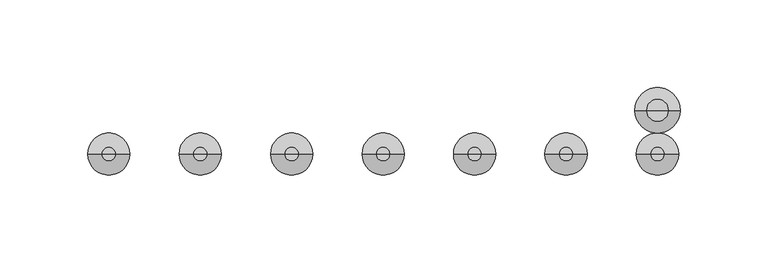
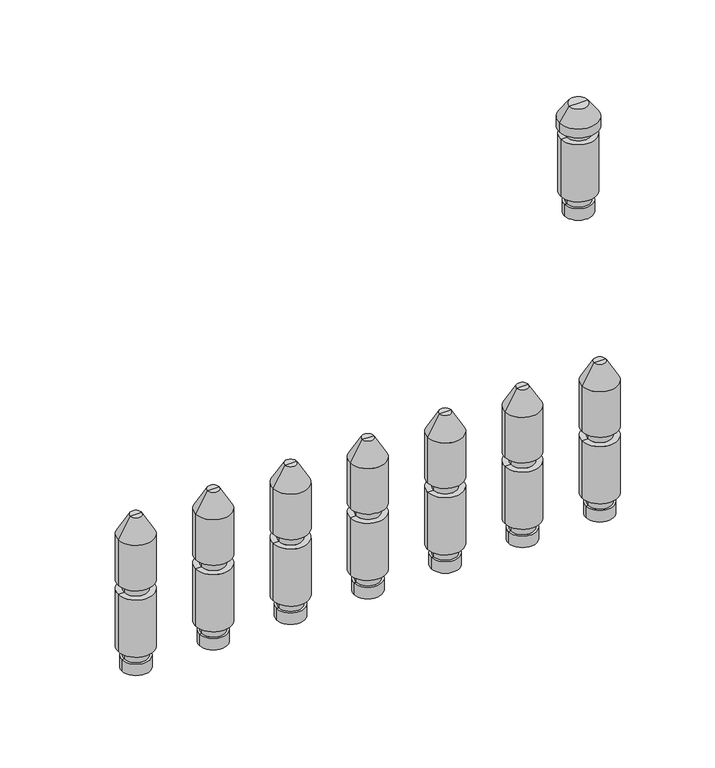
"""IFC4 building model written with IfcOpenShell, lengths in millimetres: valve geometry, PL AT_Manifold_FT-EV : 15 circuits."""

from ifc_helpers import new_model, si_unit, frame, origin, place, context, project, spatial, polyline, circle_curve, source, transform, mapped, element, save
from ifc_brep_helpers import plane_surface, cylinder_surface, revolved_surface, advanced_brep


def valve_c563ffe1(model_context):
    return source(origin(), model_context, "Body", "AdvancedBrep", [
        advanced_brep(
        [(710.3571429, 0.0, -35.11267), (729.3571429, 0.0, -35.11267), (719.8571429, 0.0, -35.11267), (710.3571429, 0.0, -27.0369646), (729.3571429, 0.0, -27.0369646), (711.8571429, 0.0, -27.0369646), (727.8571429, 0.0, -27.0369646), (711.8571429, 0.0, -20.330253), (727.8571429, 0.0, -20.330253), (707.8571429, 0.0, -20.330253), (731.8571429, 0.0, -20.330253), (707.8571429, 0.0, 20.330253), (731.8571429, 0.0, 20.330253), (711.8571429, 0.0, 20.330253), (727.8571429, 0.0, 20.330253), (711.8571429, 0.0, 27.0474786), (727.8571429, 0.0, 27.0474786), (707.8571429, 0.0, 27.0474786), (731.8571429, 0.0, 27.0474786), (707.8571429, 0.0, 59.4084325), (731.8571429, 0.0, 59.4084325), (715.8571429, 0.0, 73.264839), (723.8571429, 0.0, 73.264839), (719.8571429, 0.0, 73.264839)],
        [
            (0, 1, circle_curve(frame((719.8571429, 0.0, -35.11267), z_axis=(0.0, 0.0, -1.0), x_axis=(1.0, 0.0, 0.0)), 9.5)),
            (1, 2),
            (2, 0),
            (1, 0, circle_curve(frame((719.8571429, 0.0, -35.11267), z_axis=(0.0, 0.0, -1.0), x_axis=(1.0, 0.0, 0.0)), 9.5)),
            (3, 4, circle_curve(frame((719.8571429, 0.0, -27.0369646), z_axis=(0.0, 0.0, -1.0), x_axis=(1.0, 0.0, 0.0)), 9.5)),
            (4, 1),
            (0, 3),
            (4, 3, circle_curve(frame((719.8571429, 0.0, -27.0369646), z_axis=(0.0, 0.0, -1.0), x_axis=(1.0, 0.0, 0.0)), 9.5)),
            (5, 6, circle_curve(frame((719.8571429, 0.0, -27.0369646), z_axis=(0.0, 0.0, -1.0), x_axis=(1.0, 0.0, 0.0)), 8.0)),
            (6, 4),
            (3, 5),
            (6, 5, circle_curve(frame((719.8571429, 0.0, -27.0369646), z_axis=(0.0, 0.0, -1.0), x_axis=(1.0, 0.0, 0.0)), 8.0)),
            (7, 8, circle_curve(frame((719.8571429, 0.0, -20.330253), z_axis=(0.0, 0.0, -1.0), x_axis=(1.0, 0.0, 0.0)), 8.0)),
            (8, 6),
            (5, 7),
            (8, 7, circle_curve(frame((719.8571429, 0.0, -20.330253), z_axis=(0.0, 0.0, -1.0), x_axis=(1.0, 0.0, 0.0)), 8.0)),
            (9, 10, circle_curve(frame((719.8571429, 0.0, -20.330253), z_axis=(0.0, 0.0, -1.0), x_axis=(1.0, 0.0, 0.0)), 12.0)),
            (10, 8),
            (7, 9),
            (10, 9, circle_curve(frame((719.8571429, 0.0, -20.330253), z_axis=(0.0, 0.0, -1.0), x_axis=(1.0, 0.0, 0.0)), 12.0)),
            (11, 12, circle_curve(frame((719.8571429, 0.0, 20.330253), z_axis=(0.0, 0.0, -1.0), x_axis=(1.0, 0.0, 0.0)), 12.0)),
            (12, 10),
            (9, 11),
            (12, 11, circle_curve(frame((719.8571429, 0.0, 20.330253), z_axis=(0.0, 0.0, -1.0), x_axis=(1.0, 0.0, 0.0)), 12.0)),
            (13, 14, circle_curve(frame((719.8571429, 0.0, 20.330253), z_axis=(0.0, 0.0, -1.0), x_axis=(1.0, 0.0, 0.0)), 8.0)),
            (14, 12),
            (11, 13),
            (14, 13, circle_curve(frame((719.8571429, 0.0, 20.330253), z_axis=(0.0, 0.0, -1.0), x_axis=(1.0, 0.0, 0.0)), 8.0)),
            (15, 16, circle_curve(frame((719.8571429, 0.0, 27.0474786), z_axis=(0.0, 0.0, -1.0), x_axis=(1.0, 0.0, 0.0)), 8.0)),
            (16, 14),
            (13, 15),
            (16, 15, circle_curve(frame((719.8571429, 0.0, 27.0474786), z_axis=(0.0, 0.0, -1.0), x_axis=(1.0, 0.0, 0.0)), 8.0)),
            (17, 18, circle_curve(frame((719.8571429, 0.0, 27.0474786), z_axis=(0.0, 0.0, -1.0), x_axis=(1.0, 0.0, 0.0)), 12.0)),
            (18, 16),
            (15, 17),
            (18, 17, circle_curve(frame((719.8571429, 0.0, 27.0474786), z_axis=(0.0, 0.0, -1.0), x_axis=(1.0, 0.0, 0.0)), 12.0)),
            (19, 20, circle_curve(frame((719.8571429, 0.0, 59.4084325), z_axis=(0.0, 0.0, -1.0), x_axis=(1.0, 0.0, 0.0)), 12.0)),
            (20, 18),
            (17, 19),
            (20, 19, circle_curve(frame((719.8571429, 0.0, 59.4084325), z_axis=(0.0, 0.0, -1.0), x_axis=(1.0, 0.0, 0.0)), 12.0)),
            (21, 22, circle_curve(frame((719.8571429, 0.0, 73.264839), z_axis=(0.0, 0.0, -1.0), x_axis=(1.0, 0.0, 0.0)), 4.0)),
            (22, 20),
            (19, 21),
            (22, 21, circle_curve(frame((719.8571429, 0.0, 73.264839), z_axis=(0.0, 0.0, -1.0), x_axis=(1.0, 0.0, 0.0)), 4.0)),
            (23, 22),
            (21, 23),
        ],
        [
            plane_surface(frame((719.8571429, 0.0, -35.11267), z_axis=(0.0, 0.0, -1.0), x_axis=(1.0, 0.0, 0.0))),
            cylinder_surface(frame((719.8571429, 0.0, 58.264839), z_axis=(0.0, 0.0, 1.0), x_axis=(1.0, 0.0, 0.0)), 9.5),
            plane_surface(frame((719.8571429, 0.0, -27.0369646), z_axis=(0.0, 0.0, 1.0), x_axis=(1.0, 0.0, 0.0))),
            cylinder_surface(frame((719.8571429, 0.0, 58.264839), z_axis=(0.0, 0.0, 1.0), x_axis=(1.0, 0.0, 0.0)), 8.0),
            plane_surface(frame((719.8571429, 0.0, -20.330253), z_axis=(0.0, 0.0, -1.0), x_axis=(1.0, 0.0, 0.0))),
            cylinder_surface(frame((719.8571429, 0.0, 58.264839), z_axis=(0.0, 0.0, 1.0), x_axis=(1.0, 0.0, 0.0)), 12.0),
            plane_surface(frame((719.8571429, 0.0, 20.330253), z_axis=(0.0, 0.0, 1.0), x_axis=(1.0, 0.0, 0.0))),
            plane_surface(frame((719.8571429, 0.0, 27.0474786), z_axis=(0.0, 0.0, -1.0), x_axis=(1.0, 0.0, 0.0))),
            revolved_surface(polyline([(731.8571429, 0.0, 59.4084325), (723.8571429, 0.0, 73.264839)]), (719.8571429, 0.0, 58.264839), (0.0, 0.0, 1.0)),
            plane_surface(frame((719.8571429, 0.0, 73.264839), z_axis=(0.0, 0.0, 1.0), x_axis=(1.0, 0.0, 0.0))),
        ],
        [
            (0, [[1, 2, 3]]),
            (0, [[4, -3, -2]]),
            (1, [[5, 6, -1, 7]]),
            (1, [[8, -7, -4, -6]]),
            (2, [[9, 10, -5, 11]]),
            (2, [[12, -11, -8, -10]]),
            (3, [[13, 14, -9, 15]]),
            (3, [[16, -15, -12, -14]]),
            (4, [[17, 18, -13, 19]]),
            (4, [[20, -19, -16, -18]]),
            (5, [[21, 22, -17, 23]]),
            (5, [[24, -23, -20, -22]]),
            (6, [[25, 26, -21, 27]]),
            (6, [[28, -27, -24, -26]]),
            (3, [[29, 30, -25, 31]]),
            (3, [[32, -31, -28, -30]]),
            (7, [[33, 34, -29, 35]]),
            (7, [[36, -35, -32, -34]]),
            (5, [[37, 38, -33, 39]]),
            (5, [[40, -39, -36, -38]]),
            (8, [[41, 42, -37, 43]]),
            (8, [[44, -43, -40, -42]]),
            (9, [[45, -41, 46]]),
            (9, [[-46, -44, -45]]),
        ],
    ),
        advanced_brep(
        [(658.2142857, 0.0, -35.11267), (677.2142857, 0.0, -35.11267), (667.7142857, 0.0, -35.11267), (658.2142857, 0.0, -27.0369646), (677.2142857, 0.0, -27.0369646), (659.7142857, 0.0, -27.0369646), (675.7142857, 0.0, -27.0369646), (659.7142857, 0.0, -20.330253), (675.7142857, 0.0, -20.330253), (655.7142857, 0.0, -20.330253), (679.7142857, 0.0, -20.330253), (655.7142857, 0.0, 20.330253), (679.7142857, 0.0, 20.330253), (659.7142857, 0.0, 20.330253), (675.7142857, 0.0, 20.330253), (659.7142857, 0.0, 27.0474786), (675.7142857, 0.0, 27.0474786), (655.7142857, 0.0, 27.0474786), (679.7142857, 0.0, 27.0474786), (655.7142857, 0.0, 59.4084325), (679.7142857, 0.0, 59.4084325), (663.7142857, 0.0, 73.264839), (671.7142857, 0.0, 73.264839), (667.7142857, 0.0, 73.264839)],
        [
            (0, 1, circle_curve(frame((667.7142857, 0.0, -35.11267), z_axis=(0.0, 0.0, -1.0), x_axis=(1.0, 0.0, 0.0)), 9.5)),
            (1, 2),
            (2, 0),
            (1, 0, circle_curve(frame((667.7142857, 0.0, -35.11267), z_axis=(0.0, 0.0, -1.0), x_axis=(1.0, 0.0, 0.0)), 9.5)),
            (3, 4, circle_curve(frame((667.7142857, 0.0, -27.0369646), z_axis=(0.0, 0.0, -1.0), x_axis=(1.0, 0.0, 0.0)), 9.5)),
            (4, 1),
            (0, 3),
            (4, 3, circle_curve(frame((667.7142857, 0.0, -27.0369646), z_axis=(0.0, 0.0, -1.0), x_axis=(1.0, 0.0, 0.0)), 9.5)),
            (5, 6, circle_curve(frame((667.7142857, 0.0, -27.0369646), z_axis=(0.0, 0.0, -1.0), x_axis=(1.0, 0.0, 0.0)), 8.0)),
            (6, 4),
            (3, 5),
            (6, 5, circle_curve(frame((667.7142857, 0.0, -27.0369646), z_axis=(0.0, 0.0, -1.0), x_axis=(1.0, 0.0, 0.0)), 8.0)),
            (7, 8, circle_curve(frame((667.7142857, 0.0, -20.330253), z_axis=(0.0, 0.0, -1.0), x_axis=(1.0, 0.0, 0.0)), 8.0)),
            (8, 6),
            (5, 7),
            (8, 7, circle_curve(frame((667.7142857, 0.0, -20.330253), z_axis=(0.0, 0.0, -1.0), x_axis=(1.0, 0.0, 0.0)), 8.0)),
            (9, 10, circle_curve(frame((667.7142857, 0.0, -20.330253), z_axis=(0.0, 0.0, -1.0), x_axis=(1.0, 0.0, 0.0)), 12.0)),
            (10, 8),
            (7, 9),
            (10, 9, circle_curve(frame((667.7142857, 0.0, -20.330253), z_axis=(0.0, 0.0, -1.0), x_axis=(1.0, 0.0, 0.0)), 12.0)),
            (11, 12, circle_curve(frame((667.7142857, 0.0, 20.330253), z_axis=(0.0, 0.0, -1.0), x_axis=(1.0, 0.0, 0.0)), 12.0)),
            (12, 10),
            (9, 11),
            (12, 11, circle_curve(frame((667.7142857, 0.0, 20.330253), z_axis=(0.0, 0.0, -1.0), x_axis=(1.0, 0.0, 0.0)), 12.0)),
            (13, 14, circle_curve(frame((667.7142857, 0.0, 20.330253), z_axis=(0.0, 0.0, -1.0), x_axis=(1.0, 0.0, 0.0)), 8.0)),
            (14, 12),
            (11, 13),
            (14, 13, circle_curve(frame((667.7142857, 0.0, 20.330253), z_axis=(0.0, 0.0, -1.0), x_axis=(1.0, 0.0, 0.0)), 8.0)),
            (15, 16, circle_curve(frame((667.7142857, 0.0, 27.0474786), z_axis=(0.0, 0.0, -1.0), x_axis=(1.0, 0.0, 0.0)), 8.0)),
            (16, 14),
            (13, 15),
            (16, 15, circle_curve(frame((667.7142857, 0.0, 27.0474786), z_axis=(0.0, 0.0, -1.0), x_axis=(1.0, 0.0, 0.0)), 8.0)),
            (17, 18, circle_curve(frame((667.7142857, 0.0, 27.0474786), z_axis=(0.0, 0.0, -1.0), x_axis=(1.0, 0.0, 0.0)), 12.0)),
            (18, 16),
            (15, 17),
            (18, 17, circle_curve(frame((667.7142857, 0.0, 27.0474786), z_axis=(0.0, 0.0, -1.0), x_axis=(1.0, 0.0, 0.0)), 12.0)),
            (19, 20, circle_curve(frame((667.7142857, 0.0, 59.4084325), z_axis=(0.0, 0.0, -1.0), x_axis=(1.0, 0.0, 0.0)), 12.0)),
            (20, 18),
            (17, 19),
            (20, 19, circle_curve(frame((667.7142857, 0.0, 59.4084325), z_axis=(0.0, 0.0, -1.0), x_axis=(1.0, 0.0, 0.0)), 12.0)),
            (21, 22, circle_curve(frame((667.7142857, 0.0, 73.264839), z_axis=(0.0, 0.0, -1.0), x_axis=(1.0, 0.0, 0.0)), 4.0)),
            (22, 20),
            (19, 21),
            (22, 21, circle_curve(frame((667.7142857, 0.0, 73.264839), z_axis=(0.0, 0.0, -1.0), x_axis=(1.0, 0.0, 0.0)), 4.0)),
            (23, 22),
            (21, 23),
        ],
        [
            plane_surface(frame((667.7142857, 0.0, -35.11267), z_axis=(0.0, 0.0, -1.0), x_axis=(1.0, 0.0, 0.0))),
            cylinder_surface(frame((667.7142857, 0.0, 58.264839), z_axis=(0.0, 0.0, 1.0), x_axis=(1.0, 0.0, 0.0)), 9.5),
            plane_surface(frame((667.7142857, 0.0, -27.0369646), z_axis=(0.0, 0.0, 1.0), x_axis=(1.0, 0.0, 0.0))),
            cylinder_surface(frame((667.7142857, 0.0, 58.264839), z_axis=(0.0, 0.0, 1.0), x_axis=(1.0, 0.0, 0.0)), 8.0),
            plane_surface(frame((667.7142857, 0.0, -20.330253), z_axis=(0.0, 0.0, -1.0), x_axis=(1.0, 0.0, 0.0))),
            cylinder_surface(frame((667.7142857, 0.0, 58.264839), z_axis=(0.0, 0.0, 1.0), x_axis=(1.0, 0.0, 0.0)), 12.0),
            plane_surface(frame((667.7142857, 0.0, 20.330253), z_axis=(0.0, 0.0, 1.0), x_axis=(1.0, 0.0, 0.0))),
            plane_surface(frame((667.7142857, 0.0, 27.0474786), z_axis=(0.0, 0.0, -1.0), x_axis=(1.0, 0.0, 0.0))),
            revolved_surface(polyline([(679.7142857, 0.0, 59.4084325), (671.7142857, 0.0, 73.264839)]), (667.7142857, 0.0, 58.264839), (0.0, 0.0, 1.0)),
            plane_surface(frame((667.7142857, 0.0, 73.264839), z_axis=(0.0, 0.0, 1.0), x_axis=(1.0, 0.0, 0.0))),
        ],
        [
            (0, [[1, 2, 3]]),
            (0, [[4, -3, -2]]),
            (1, [[5, 6, -1, 7]]),
            (1, [[8, -7, -4, -6]]),
            (2, [[9, 10, -5, 11]]),
            (2, [[12, -11, -8, -10]]),
            (3, [[13, 14, -9, 15]]),
            (3, [[16, -15, -12, -14]]),
            (4, [[17, 18, -13, 19]]),
            (4, [[20, -19, -16, -18]]),
            (5, [[21, 22, -17, 23]]),
            (5, [[24, -23, -20, -22]]),
            (6, [[25, 26, -21, 27]]),
            (6, [[28, -27, -24, -26]]),
            (3, [[29, 30, -25, 31]]),
            (3, [[32, -31, -28, -30]]),
            (7, [[33, 34, -29, 35]]),
            (7, [[36, -35, -32, -34]]),
            (5, [[37, 38, -33, 39]]),
            (5, [[40, -39, -36, -38]]),
            (8, [[41, 42, -37, 43]]),
            (8, [[44, -43, -40, -42]]),
            (9, [[45, -41, 46]]),
            (9, [[-46, -44, -45]]),
        ],
    ),
        advanced_brep(
        [(606.0714286, 0.0, -35.11267), (625.0714286, 0.0, -35.11267), (615.5714286, 0.0, -35.11267), (606.0714286, 0.0, -27.0369646), (625.0714286, 0.0, -27.0369646), (607.5714286, 0.0, -27.0369646), (623.5714286, 0.0, -27.0369646), (607.5714286, 0.0, -20.330253), (623.5714286, 0.0, -20.330253), (603.5714286, 0.0, -20.330253), (627.5714286, 0.0, -20.330253), (603.5714286, 0.0, 20.330253), (627.5714286, 0.0, 20.330253), (607.5714286, 0.0, 20.330253), (623.5714286, 0.0, 20.330253), (607.5714286, 0.0, 27.0474786), (623.5714286, 0.0, 27.0474786), (603.5714286, 0.0, 27.0474786), (627.5714286, 0.0, 27.0474786), (603.5714286, 0.0, 59.4084325), (627.5714286, 0.0, 59.4084325), (611.5714286, 0.0, 73.264839), (619.5714286, 0.0, 73.264839), (615.5714286, 0.0, 73.264839)],
        [
            (0, 1, circle_curve(frame((615.5714286, 0.0, -35.11267), z_axis=(0.0, 0.0, -1.0), x_axis=(1.0, 0.0, 0.0)), 9.5)),
            (1, 2),
            (2, 0),
            (1, 0, circle_curve(frame((615.5714286, 0.0, -35.11267), z_axis=(0.0, 0.0, -1.0), x_axis=(1.0, 0.0, 0.0)), 9.5)),
            (3, 4, circle_curve(frame((615.5714286, 0.0, -27.0369646), z_axis=(0.0, 0.0, -1.0), x_axis=(1.0, 0.0, 0.0)), 9.5)),
            (4, 1),
            (0, 3),
            (4, 3, circle_curve(frame((615.5714286, 0.0, -27.0369646), z_axis=(0.0, 0.0, -1.0), x_axis=(1.0, 0.0, 0.0)), 9.5)),
            (5, 6, circle_curve(frame((615.5714286, 0.0, -27.0369646), z_axis=(0.0, 0.0, -1.0), x_axis=(1.0, 0.0, 0.0)), 8.0)),
            (6, 4),
            (3, 5),
            (6, 5, circle_curve(frame((615.5714286, 0.0, -27.0369646), z_axis=(0.0, 0.0, -1.0), x_axis=(1.0, 0.0, 0.0)), 8.0)),
            (7, 8, circle_curve(frame((615.5714286, 0.0, -20.330253), z_axis=(0.0, 0.0, -1.0), x_axis=(1.0, 0.0, 0.0)), 8.0)),
            (8, 6),
            (5, 7),
            (8, 7, circle_curve(frame((615.5714286, 0.0, -20.330253), z_axis=(0.0, 0.0, -1.0), x_axis=(1.0, 0.0, 0.0)), 8.0)),
            (9, 10, circle_curve(frame((615.5714286, 0.0, -20.330253), z_axis=(0.0, 0.0, -1.0), x_axis=(1.0, 0.0, 0.0)), 12.0)),
            (10, 8),
            (7, 9),
            (10, 9, circle_curve(frame((615.5714286, 0.0, -20.330253), z_axis=(0.0, 0.0, -1.0), x_axis=(1.0, 0.0, 0.0)), 12.0)),
            (11, 12, circle_curve(frame((615.5714286, 0.0, 20.330253), z_axis=(0.0, 0.0, -1.0), x_axis=(1.0, 0.0, 0.0)), 12.0)),
            (12, 10),
            (9, 11),
            (12, 11, circle_curve(frame((615.5714286, 0.0, 20.330253), z_axis=(0.0, 0.0, -1.0), x_axis=(1.0, 0.0, 0.0)), 12.0)),
            (13, 14, circle_curve(frame((615.5714286, 0.0, 20.330253), z_axis=(0.0, 0.0, -1.0), x_axis=(1.0, 0.0, 0.0)), 8.0)),
            (14, 12),
            (11, 13),
            (14, 13, circle_curve(frame((615.5714286, 0.0, 20.330253), z_axis=(0.0, 0.0, -1.0), x_axis=(1.0, 0.0, 0.0)), 8.0)),
            (15, 16, circle_curve(frame((615.5714286, 0.0, 27.0474786), z_axis=(0.0, 0.0, -1.0), x_axis=(1.0, 0.0, 0.0)), 8.0)),
            (16, 14),
            (13, 15),
            (16, 15, circle_curve(frame((615.5714286, 0.0, 27.0474786), z_axis=(0.0, 0.0, -1.0), x_axis=(1.0, 0.0, 0.0)), 8.0)),
            (17, 18, circle_curve(frame((615.5714286, 0.0, 27.0474786), z_axis=(0.0, 0.0, -1.0), x_axis=(1.0, 0.0, 0.0)), 12.0)),
            (18, 16),
            (15, 17),
            (18, 17, circle_curve(frame((615.5714286, 0.0, 27.0474786), z_axis=(0.0, 0.0, -1.0), x_axis=(1.0, 0.0, 0.0)), 12.0)),
            (19, 20, circle_curve(frame((615.5714286, 0.0, 59.4084325), z_axis=(0.0, 0.0, -1.0), x_axis=(1.0, 0.0, 0.0)), 12.0)),
            (20, 18),
            (17, 19),
            (20, 19, circle_curve(frame((615.5714286, 0.0, 59.4084325), z_axis=(0.0, 0.0, -1.0), x_axis=(1.0, 0.0, 0.0)), 12.0)),
            (21, 22, circle_curve(frame((615.5714286, 0.0, 73.264839), z_axis=(0.0, 0.0, -1.0), x_axis=(1.0, 0.0, 0.0)), 4.0)),
            (22, 20),
            (19, 21),
            (22, 21, circle_curve(frame((615.5714286, 0.0, 73.264839), z_axis=(0.0, 0.0, -1.0), x_axis=(1.0, 0.0, 0.0)), 4.0)),
            (23, 22),
            (21, 23),
        ],
        [
            plane_surface(frame((615.5714286, 0.0, -35.11267), z_axis=(0.0, 0.0, -1.0), x_axis=(1.0, 0.0, 0.0))),
            cylinder_surface(frame((615.5714286, 0.0, 58.264839), z_axis=(0.0, 0.0, 1.0), x_axis=(1.0, 0.0, 0.0)), 9.5),
            plane_surface(frame((615.5714286, 0.0, -27.0369646), z_axis=(0.0, 0.0, 1.0), x_axis=(1.0, 0.0, 0.0))),
            cylinder_surface(frame((615.5714286, 0.0, 58.264839), z_axis=(0.0, 0.0, 1.0), x_axis=(1.0, 0.0, 0.0)), 8.0),
            plane_surface(frame((615.5714286, 0.0, -20.330253), z_axis=(0.0, 0.0, -1.0), x_axis=(1.0, 0.0, 0.0))),
            cylinder_surface(frame((615.5714286, 0.0, 58.264839), z_axis=(0.0, 0.0, 1.0), x_axis=(1.0, 0.0, 0.0)), 12.0),
            plane_surface(frame((615.5714286, 0.0, 20.330253), z_axis=(0.0, 0.0, 1.0), x_axis=(1.0, 0.0, 0.0))),
            plane_surface(frame((615.5714286, 0.0, 27.0474786), z_axis=(0.0, 0.0, -1.0), x_axis=(1.0, 0.0, 0.0))),
            revolved_surface(polyline([(627.5714286, 0.0, 59.4084325), (619.5714286, 0.0, 73.264839)]), (615.5714286, 0.0, 58.264839), (0.0, 0.0, 1.0)),
            plane_surface(frame((615.5714286, 0.0, 73.264839), z_axis=(0.0, 0.0, 1.0), x_axis=(1.0, 0.0, 0.0))),
        ],
        [
            (0, [[1, 2, 3]]),
            (0, [[4, -3, -2]]),
            (1, [[5, 6, -1, 7]]),
            (1, [[8, -7, -4, -6]]),
            (2, [[9, 10, -5, 11]]),
            (2, [[12, -11, -8, -10]]),
            (3, [[13, 14, -9, 15]]),
            (3, [[16, -15, -12, -14]]),
            (4, [[17, 18, -13, 19]]),
            (4, [[20, -19, -16, -18]]),
            (5, [[21, 22, -17, 23]]),
            (5, [[24, -23, -20, -22]]),
            (6, [[25, 26, -21, 27]]),
            (6, [[28, -27, -24, -26]]),
            (3, [[29, 30, -25, 31]]),
            (3, [[32, -31, -28, -30]]),
            (7, [[33, 34, -29, 35]]),
            (7, [[36, -35, -32, -34]]),
            (5, [[37, 38, -33, 39]]),
            (5, [[40, -39, -36, -38]]),
            (8, [[41, 42, -37, 43]]),
            (8, [[44, -43, -40, -42]]),
            (9, [[45, -41, 46]]),
            (9, [[-46, -44, -45]]),
        ],
    ),
        advanced_brep(
        [(553.9285714, 0.0, -35.11267), (572.9285714, 0.0, -35.11267), (563.4285714, 0.0, -35.11267), (553.9285714, 0.0, -27.0369646), (572.9285714, 0.0, -27.0369646), (555.4285714, 0.0, -27.0369646), (571.4285714, 0.0, -27.0369646), (555.4285714, 0.0, -20.330253), (571.4285714, 0.0, -20.330253), (551.4285714, 0.0, -20.330253), (575.4285714, 0.0, -20.330253), (551.4285714, 0.0, 20.330253), (575.4285714, 0.0, 20.330253), (555.4285714, 0.0, 20.330253), (571.4285714, 0.0, 20.330253), (555.4285714, 0.0, 27.0474786), (571.4285714, 0.0, 27.0474786), (551.4285714, 0.0, 27.0474786), (575.4285714, 0.0, 27.0474786), (551.4285714, 0.0, 59.4084325), (575.4285714, 0.0, 59.4084325), (559.4285714, 0.0, 73.264839), (567.4285714, 0.0, 73.264839), (563.4285714, 0.0, 73.264839)],
        [
            (0, 1, circle_curve(frame((563.4285714, 0.0, -35.11267), z_axis=(0.0, 0.0, -1.0), x_axis=(1.0, 0.0, 0.0)), 9.5)),
            (1, 2),
            (2, 0),
            (1, 0, circle_curve(frame((563.4285714, 0.0, -35.11267), z_axis=(0.0, 0.0, -1.0), x_axis=(1.0, 0.0, 0.0)), 9.5)),
            (3, 4, circle_curve(frame((563.4285714, 0.0, -27.0369646), z_axis=(0.0, 0.0, -1.0), x_axis=(1.0, 0.0, 0.0)), 9.5)),
            (4, 1),
            (0, 3),
            (4, 3, circle_curve(frame((563.4285714, 0.0, -27.0369646), z_axis=(0.0, 0.0, -1.0), x_axis=(1.0, 0.0, 0.0)), 9.5)),
            (5, 6, circle_curve(frame((563.4285714, 0.0, -27.0369646), z_axis=(0.0, 0.0, -1.0), x_axis=(1.0, 0.0, 0.0)), 8.0)),
            (6, 4),
            (3, 5),
            (6, 5, circle_curve(frame((563.4285714, 0.0, -27.0369646), z_axis=(0.0, 0.0, -1.0), x_axis=(1.0, 0.0, 0.0)), 8.0)),
            (7, 8, circle_curve(frame((563.4285714, 0.0, -20.330253), z_axis=(0.0, 0.0, -1.0), x_axis=(1.0, 0.0, 0.0)), 8.0)),
            (8, 6),
            (5, 7),
            (8, 7, circle_curve(frame((563.4285714, 0.0, -20.330253), z_axis=(0.0, 0.0, -1.0), x_axis=(1.0, 0.0, 0.0)), 8.0)),
            (9, 10, circle_curve(frame((563.4285714, 0.0, -20.330253), z_axis=(0.0, 0.0, -1.0), x_axis=(1.0, 0.0, 0.0)), 12.0)),
            (10, 8),
            (7, 9),
            (10, 9, circle_curve(frame((563.4285714, 0.0, -20.330253), z_axis=(0.0, 0.0, -1.0), x_axis=(1.0, 0.0, 0.0)), 12.0)),
            (11, 12, circle_curve(frame((563.4285714, 0.0, 20.330253), z_axis=(0.0, 0.0, -1.0), x_axis=(1.0, 0.0, 0.0)), 12.0)),
            (12, 10),
            (9, 11),
            (12, 11, circle_curve(frame((563.4285714, 0.0, 20.330253), z_axis=(0.0, 0.0, -1.0), x_axis=(1.0, 0.0, 0.0)), 12.0)),
            (13, 14, circle_curve(frame((563.4285714, 0.0, 20.330253), z_axis=(0.0, 0.0, -1.0), x_axis=(1.0, 0.0, 0.0)), 8.0)),
            (14, 12),
            (11, 13),
            (14, 13, circle_curve(frame((563.4285714, 0.0, 20.330253), z_axis=(0.0, 0.0, -1.0), x_axis=(1.0, 0.0, 0.0)), 8.0)),
            (15, 16, circle_curve(frame((563.4285714, 0.0, 27.0474786), z_axis=(0.0, 0.0, -1.0), x_axis=(1.0, 0.0, 0.0)), 8.0)),
            (16, 14),
            (13, 15),
            (16, 15, circle_curve(frame((563.4285714, 0.0, 27.0474786), z_axis=(0.0, 0.0, -1.0), x_axis=(1.0, 0.0, 0.0)), 8.0)),
            (17, 18, circle_curve(frame((563.4285714, 0.0, 27.0474786), z_axis=(0.0, 0.0, -1.0), x_axis=(1.0, 0.0, 0.0)), 12.0)),
            (18, 16),
            (15, 17),
            (18, 17, circle_curve(frame((563.4285714, 0.0, 27.0474786), z_axis=(0.0, 0.0, -1.0), x_axis=(1.0, 0.0, 0.0)), 12.0)),
            (19, 20, circle_curve(frame((563.4285714, 0.0, 59.4084325), z_axis=(0.0, 0.0, -1.0), x_axis=(1.0, 0.0, 0.0)), 12.0)),
            (20, 18),
            (17, 19),
            (20, 19, circle_curve(frame((563.4285714, 0.0, 59.4084325), z_axis=(0.0, 0.0, -1.0), x_axis=(1.0, 0.0, 0.0)), 12.0)),
            (21, 22, circle_curve(frame((563.4285714, 0.0, 73.264839), z_axis=(0.0, 0.0, -1.0), x_axis=(1.0, 0.0, 0.0)), 4.0)),
            (22, 20),
            (19, 21),
            (22, 21, circle_curve(frame((563.4285714, 0.0, 73.264839), z_axis=(0.0, 0.0, -1.0), x_axis=(1.0, 0.0, 0.0)), 4.0)),
            (23, 22),
            (21, 23),
        ],
        [
            plane_surface(frame((563.4285714, 0.0, -35.11267), z_axis=(0.0, 0.0, -1.0), x_axis=(1.0, 0.0, 0.0))),
            cylinder_surface(frame((563.4285714, 0.0, 58.264839), z_axis=(0.0, 0.0, 1.0), x_axis=(1.0, 0.0, 0.0)), 9.5),
            plane_surface(frame((563.4285714, 0.0, -27.0369646), z_axis=(0.0, 0.0, 1.0), x_axis=(1.0, 0.0, 0.0))),
            cylinder_surface(frame((563.4285714, 0.0, 58.264839), z_axis=(0.0, 0.0, 1.0), x_axis=(1.0, 0.0, 0.0)), 8.0),
            plane_surface(frame((563.4285714, 0.0, -20.330253), z_axis=(0.0, 0.0, -1.0), x_axis=(1.0, 0.0, 0.0))),
            cylinder_surface(frame((563.4285714, 0.0, 58.264839), z_axis=(0.0, 0.0, 1.0), x_axis=(1.0, 0.0, 0.0)), 12.0),
            plane_surface(frame((563.4285714, 0.0, 20.330253), z_axis=(0.0, 0.0, 1.0), x_axis=(1.0, 0.0, 0.0))),
            plane_surface(frame((563.4285714, 0.0, 27.0474786), z_axis=(0.0, 0.0, -1.0), x_axis=(1.0, 0.0, 0.0))),
            revolved_surface(polyline([(575.4285714, 0.0, 59.4084325), (567.4285714, 0.0, 73.264839)]), (563.4285714, 0.0, 58.264839), (0.0, 0.0, 1.0)),
            plane_surface(frame((563.4285714, 0.0, 73.264839), z_axis=(0.0, 0.0, 1.0), x_axis=(1.0, 0.0, 0.0))),
        ],
        [
            (0, [[1, 2, 3]]),
            (0, [[4, -3, -2]]),
            (1, [[5, 6, -1, 7]]),
            (1, [[8, -7, -4, -6]]),
            (2, [[9, 10, -5, 11]]),
            (2, [[12, -11, -8, -10]]),
            (3, [[13, 14, -9, 15]]),
            (3, [[16, -15, -12, -14]]),
            (4, [[17, 18, -13, 19]]),
            (4, [[20, -19, -16, -18]]),
            (5, [[21, 22, -17, 23]]),
            (5, [[24, -23, -20, -22]]),
            (6, [[25, 26, -21, 27]]),
            (6, [[28, -27, -24, -26]]),
            (3, [[29, 30, -25, 31]]),
            (3, [[32, -31, -28, -30]]),
            (7, [[33, 34, -29, 35]]),
            (7, [[36, -35, -32, -34]]),
            (5, [[37, 38, -33, 39]]),
            (5, [[40, -39, -36, -38]]),
            (8, [[41, 42, -37, 43]]),
            (8, [[44, -43, -40, -42]]),
            (9, [[45, -41, 46]]),
            (9, [[-46, -44, -45]]),
        ],
    ),
        advanced_brep(
        [(501.7857143, 0.0, -35.11267), (520.7857143, 0.0, -35.11267), (511.2857143, 0.0, -35.11267), (501.7857143, 0.0, -27.0369646), (520.7857143, 0.0, -27.0369646), (503.2857143, 0.0, -27.0369646), (519.2857143, 0.0, -27.0369646), (503.2857143, 0.0, -20.330253), (519.2857143, 0.0, -20.330253), (499.2857143, 0.0, -20.330253), (523.2857143, 0.0, -20.330253), (499.2857143, 0.0, 20.330253), (523.2857143, 0.0, 20.330253), (503.2857143, 0.0, 20.330253), (519.2857143, 0.0, 20.330253), (503.2857143, 0.0, 27.0474786), (519.2857143, 0.0, 27.0474786), (499.2857143, 0.0, 27.0474786), (523.2857143, 0.0, 27.0474786), (499.2857143, 0.0, 59.4084325), (523.2857143, 0.0, 59.4084325), (507.2857143, 0.0, 73.264839), (515.2857143, 0.0, 73.264839), (511.2857143, 0.0, 73.264839)],
        [
            (0, 1, circle_curve(frame((511.2857143, 0.0, -35.11267), z_axis=(0.0, 0.0, -1.0), x_axis=(1.0, 0.0, 0.0)), 9.5)),
            (1, 2),
            (2, 0),
            (1, 0, circle_curve(frame((511.2857143, 0.0, -35.11267), z_axis=(0.0, 0.0, -1.0), x_axis=(1.0, 0.0, 0.0)), 9.5)),
            (3, 4, circle_curve(frame((511.2857143, 0.0, -27.0369646), z_axis=(0.0, 0.0, -1.0), x_axis=(1.0, 0.0, 0.0)), 9.5)),
            (4, 1),
            (0, 3),
            (4, 3, circle_curve(frame((511.2857143, 0.0, -27.0369646), z_axis=(0.0, 0.0, -1.0), x_axis=(1.0, 0.0, 0.0)), 9.5)),
            (5, 6, circle_curve(frame((511.2857143, 0.0, -27.0369646), z_axis=(0.0, 0.0, -1.0), x_axis=(1.0, 0.0, 0.0)), 8.0)),
            (6, 4),
            (3, 5),
            (6, 5, circle_curve(frame((511.2857143, 0.0, -27.0369646), z_axis=(0.0, 0.0, -1.0), x_axis=(1.0, 0.0, 0.0)), 8.0)),
            (7, 8, circle_curve(frame((511.2857143, 0.0, -20.330253), z_axis=(0.0, 0.0, -1.0), x_axis=(1.0, 0.0, 0.0)), 8.0)),
            (8, 6),
            (5, 7),
            (8, 7, circle_curve(frame((511.2857143, 0.0, -20.330253), z_axis=(0.0, 0.0, -1.0), x_axis=(1.0, 0.0, 0.0)), 8.0)),
            (9, 10, circle_curve(frame((511.2857143, 0.0, -20.330253), z_axis=(0.0, 0.0, -1.0), x_axis=(1.0, 0.0, 0.0)), 12.0)),
            (10, 8),
            (7, 9),
            (10, 9, circle_curve(frame((511.2857143, 0.0, -20.330253), z_axis=(0.0, 0.0, -1.0), x_axis=(1.0, 0.0, 0.0)), 12.0)),
            (11, 12, circle_curve(frame((511.2857143, 0.0, 20.330253), z_axis=(0.0, 0.0, -1.0), x_axis=(1.0, 0.0, 0.0)), 12.0)),
            (12, 10),
            (9, 11),
            (12, 11, circle_curve(frame((511.2857143, 0.0, 20.330253), z_axis=(0.0, 0.0, -1.0), x_axis=(1.0, 0.0, 0.0)), 12.0)),
            (13, 14, circle_curve(frame((511.2857143, 0.0, 20.330253), z_axis=(0.0, 0.0, -1.0), x_axis=(1.0, 0.0, 0.0)), 8.0)),
            (14, 12),
            (11, 13),
            (14, 13, circle_curve(frame((511.2857143, 0.0, 20.330253), z_axis=(0.0, 0.0, -1.0), x_axis=(1.0, 0.0, 0.0)), 8.0)),
            (15, 16, circle_curve(frame((511.2857143, 0.0, 27.0474786), z_axis=(0.0, 0.0, -1.0), x_axis=(1.0, 0.0, 0.0)), 8.0)),
            (16, 14),
            (13, 15),
            (16, 15, circle_curve(frame((511.2857143, 0.0, 27.0474786), z_axis=(0.0, 0.0, -1.0), x_axis=(1.0, 0.0, 0.0)), 8.0)),
            (17, 18, circle_curve(frame((511.2857143, 0.0, 27.0474786), z_axis=(0.0, 0.0, -1.0), x_axis=(1.0, 0.0, 0.0)), 12.0)),
            (18, 16),
            (15, 17),
            (18, 17, circle_curve(frame((511.2857143, 0.0, 27.0474786), z_axis=(0.0, 0.0, -1.0), x_axis=(1.0, 0.0, 0.0)), 12.0)),
            (19, 20, circle_curve(frame((511.2857143, 0.0, 59.4084325), z_axis=(0.0, 0.0, -1.0), x_axis=(1.0, 0.0, 0.0)), 12.0)),
            (20, 18),
            (17, 19),
            (20, 19, circle_curve(frame((511.2857143, 0.0, 59.4084325), z_axis=(0.0, 0.0, -1.0), x_axis=(1.0, 0.0, 0.0)), 12.0)),
            (21, 22, circle_curve(frame((511.2857143, 0.0, 73.264839), z_axis=(0.0, 0.0, -1.0), x_axis=(1.0, 0.0, 0.0)), 4.0)),
            (22, 20),
            (19, 21),
            (22, 21, circle_curve(frame((511.2857143, 0.0, 73.264839), z_axis=(0.0, 0.0, -1.0), x_axis=(1.0, 0.0, 0.0)), 4.0)),
            (23, 22),
            (21, 23),
        ],
        [
            plane_surface(frame((511.2857143, 0.0, -35.11267), z_axis=(0.0, 0.0, -1.0), x_axis=(1.0, 0.0, 0.0))),
            cylinder_surface(frame((511.2857143, 0.0, 58.264839), z_axis=(0.0, 0.0, 1.0), x_axis=(1.0, 0.0, 0.0)), 9.5),
            plane_surface(frame((511.2857143, 0.0, -27.0369646), z_axis=(0.0, 0.0, 1.0), x_axis=(1.0, 0.0, 0.0))),
            cylinder_surface(frame((511.2857143, 0.0, 58.264839), z_axis=(0.0, 0.0, 1.0), x_axis=(1.0, 0.0, 0.0)), 8.0),
            plane_surface(frame((511.2857143, 0.0, -20.330253), z_axis=(0.0, 0.0, -1.0), x_axis=(1.0, 0.0, 0.0))),
            cylinder_surface(frame((511.2857143, 0.0, 58.264839), z_axis=(0.0, 0.0, 1.0), x_axis=(1.0, 0.0, 0.0)), 12.0),
            plane_surface(frame((511.2857143, 0.0, 20.330253), z_axis=(0.0, 0.0, 1.0), x_axis=(1.0, 0.0, 0.0))),
            plane_surface(frame((511.2857143, 0.0, 27.0474786), z_axis=(0.0, 0.0, -1.0), x_axis=(1.0, 0.0, 0.0))),
            revolved_surface(polyline([(523.2857143, 0.0, 59.4084325), (515.2857143, 0.0, 73.264839)]), (511.2857143, 0.0, 58.264839), (0.0, 0.0, 1.0)),
            plane_surface(frame((511.2857143, 0.0, 73.264839), z_axis=(0.0, 0.0, 1.0), x_axis=(1.0, 0.0, 0.0))),
        ],
        [
            (0, [[1, 2, 3]]),
            (0, [[4, -3, -2]]),
            (1, [[5, 6, -1, 7]]),
            (1, [[8, -7, -4, -6]]),
            (2, [[9, 10, -5, 11]]),
            (2, [[12, -11, -8, -10]]),
            (3, [[13, 14, -9, 15]]),
            (3, [[16, -15, -12, -14]]),
            (4, [[17, 18, -13, 19]]),
            (4, [[20, -19, -16, -18]]),
            (5, [[21, 22, -17, 23]]),
            (5, [[24, -23, -20, -22]]),
            (6, [[25, 26, -21, 27]]),
            (6, [[28, -27, -24, -26]]),
            (3, [[29, 30, -25, 31]]),
            (3, [[32, -31, -28, -30]]),
            (7, [[33, 34, -29, 35]]),
            (7, [[36, -35, -32, -34]]),
            (5, [[37, 38, -33, 39]]),
            (5, [[40, -39, -36, -38]]),
            (8, [[41, 42, -37, 43]]),
            (8, [[44, -43, -40, -42]]),
            (9, [[45, -41, 46]]),
            (9, [[-46, -44, -45]]),
        ],
    ),
        advanced_brep(
        [(449.6428571, 0.0, -35.11267), (468.6428571, 0.0, -35.11267), (459.1428571, 0.0, -35.11267), (449.6428571, 0.0, -27.0369646), (468.6428571, 0.0, -27.0369646), (451.1428571, 0.0, -27.0369646), (467.1428571, 0.0, -27.0369646), (451.1428571, 0.0, -20.330253), (467.1428571, 0.0, -20.330253), (447.1428571, 0.0, -20.330253), (471.1428571, 0.0, -20.330253), (447.1428571, 0.0, 20.330253), (471.1428571, 0.0, 20.330253), (451.1428571, 0.0, 20.330253), (467.1428571, 0.0, 20.330253), (451.1428571, 0.0, 27.0474786), (467.1428571, 0.0, 27.0474786), (447.1428571, 0.0, 27.0474786), (471.1428571, 0.0, 27.0474786), (447.1428571, 0.0, 59.4084325), (471.1428571, 0.0, 59.4084325), (455.1428571, 0.0, 73.264839), (463.1428571, 0.0, 73.264839), (459.1428571, 0.0, 73.264839)],
        [
            (0, 1, circle_curve(frame((459.1428571, 0.0, -35.11267), z_axis=(0.0, 0.0, -1.0), x_axis=(1.0, 0.0, 0.0)), 9.5)),
            (1, 2),
            (2, 0),
            (1, 0, circle_curve(frame((459.1428571, 0.0, -35.11267), z_axis=(0.0, 0.0, -1.0), x_axis=(1.0, 0.0, 0.0)), 9.5)),
            (3, 4, circle_curve(frame((459.1428571, 0.0, -27.0369646), z_axis=(0.0, 0.0, -1.0), x_axis=(1.0, 0.0, 0.0)), 9.5)),
            (4, 1),
            (0, 3),
            (4, 3, circle_curve(frame((459.1428571, 0.0, -27.0369646), z_axis=(0.0, 0.0, -1.0), x_axis=(1.0, 0.0, 0.0)), 9.5)),
            (5, 6, circle_curve(frame((459.1428571, 0.0, -27.0369646), z_axis=(0.0, 0.0, -1.0), x_axis=(1.0, 0.0, 0.0)), 8.0)),
            (6, 4),
            (3, 5),
            (6, 5, circle_curve(frame((459.1428571, 0.0, -27.0369646), z_axis=(0.0, 0.0, -1.0), x_axis=(1.0, 0.0, 0.0)), 8.0)),
            (7, 8, circle_curve(frame((459.1428571, 0.0, -20.330253), z_axis=(0.0, 0.0, -1.0), x_axis=(1.0, 0.0, 0.0)), 8.0)),
            (8, 6),
            (5, 7),
            (8, 7, circle_curve(frame((459.1428571, 0.0, -20.330253), z_axis=(0.0, 0.0, -1.0), x_axis=(1.0, 0.0, 0.0)), 8.0)),
            (9, 10, circle_curve(frame((459.1428571, 0.0, -20.330253), z_axis=(0.0, 0.0, -1.0), x_axis=(1.0, 0.0, 0.0)), 12.0)),
            (10, 8),
            (7, 9),
            (10, 9, circle_curve(frame((459.1428571, 0.0, -20.330253), z_axis=(0.0, 0.0, -1.0), x_axis=(1.0, 0.0, 0.0)), 12.0)),
            (11, 12, circle_curve(frame((459.1428571, 0.0, 20.330253), z_axis=(0.0, 0.0, -1.0), x_axis=(1.0, 0.0, 0.0)), 12.0)),
            (12, 10),
            (9, 11),
            (12, 11, circle_curve(frame((459.1428571, 0.0, 20.330253), z_axis=(0.0, 0.0, -1.0), x_axis=(1.0, 0.0, 0.0)), 12.0)),
            (13, 14, circle_curve(frame((459.1428571, 0.0, 20.330253), z_axis=(0.0, 0.0, -1.0), x_axis=(1.0, 0.0, 0.0)), 8.0)),
            (14, 12),
            (11, 13),
            (14, 13, circle_curve(frame((459.1428571, 0.0, 20.330253), z_axis=(0.0, 0.0, -1.0), x_axis=(1.0, 0.0, 0.0)), 8.0)),
            (15, 16, circle_curve(frame((459.1428571, 0.0, 27.0474786), z_axis=(0.0, 0.0, -1.0), x_axis=(1.0, 0.0, 0.0)), 8.0)),
            (16, 14),
            (13, 15),
            (16, 15, circle_curve(frame((459.1428571, 0.0, 27.0474786), z_axis=(0.0, 0.0, -1.0), x_axis=(1.0, 0.0, 0.0)), 8.0)),
            (17, 18, circle_curve(frame((459.1428571, 0.0, 27.0474786), z_axis=(0.0, 0.0, -1.0), x_axis=(1.0, 0.0, 0.0)), 12.0)),
            (18, 16),
            (15, 17),
            (18, 17, circle_curve(frame((459.1428571, 0.0, 27.0474786), z_axis=(0.0, 0.0, -1.0), x_axis=(1.0, 0.0, 0.0)), 12.0)),
            (19, 20, circle_curve(frame((459.1428571, 0.0, 59.4084325), z_axis=(0.0, 0.0, -1.0), x_axis=(1.0, 0.0, 0.0)), 12.0)),
            (20, 18),
            (17, 19),
            (20, 19, circle_curve(frame((459.1428571, 0.0, 59.4084325), z_axis=(0.0, 0.0, -1.0), x_axis=(1.0, 0.0, 0.0)), 12.0)),
            (21, 22, circle_curve(frame((459.1428571, 0.0, 73.264839), z_axis=(0.0, 0.0, -1.0), x_axis=(1.0, 0.0, 0.0)), 4.0)),
            (22, 20),
            (19, 21),
            (22, 21, circle_curve(frame((459.1428571, 0.0, 73.264839), z_axis=(0.0, 0.0, -1.0), x_axis=(1.0, 0.0, 0.0)), 4.0)),
            (23, 22),
            (21, 23),
        ],
        [
            plane_surface(frame((459.1428571, 0.0, -35.11267), z_axis=(0.0, 0.0, -1.0), x_axis=(1.0, 0.0, 0.0))),
            cylinder_surface(frame((459.1428571, 0.0, 58.264839), z_axis=(0.0, 0.0, 1.0), x_axis=(1.0, 0.0, 0.0)), 9.5),
            plane_surface(frame((459.1428571, 0.0, -27.0369646), z_axis=(0.0, 0.0, 1.0), x_axis=(1.0, 0.0, 0.0))),
            cylinder_surface(frame((459.1428571, 0.0, 58.264839), z_axis=(0.0, 0.0, 1.0), x_axis=(1.0, 0.0, 0.0)), 8.0),
            plane_surface(frame((459.1428571, 0.0, -20.330253), z_axis=(0.0, 0.0, -1.0), x_axis=(1.0, 0.0, 0.0))),
            cylinder_surface(frame((459.1428571, 0.0, 58.264839), z_axis=(0.0, 0.0, 1.0), x_axis=(1.0, 0.0, 0.0)), 12.0),
            plane_surface(frame((459.1428571, 0.0, 20.330253), z_axis=(0.0, 0.0, 1.0), x_axis=(1.0, 0.0, 0.0))),
            plane_surface(frame((459.1428571, 0.0, 27.0474786), z_axis=(0.0, 0.0, -1.0), x_axis=(1.0, 0.0, 0.0))),
            revolved_surface(polyline([(471.1428571, 0.0, 59.4084325), (463.1428571, 0.0, 73.264839)]), (459.1428571, 0.0, 58.264839), (0.0, 0.0, 1.0)),
            plane_surface(frame((459.1428571, 0.0, 73.264839), z_axis=(0.0, 0.0, 1.0), x_axis=(1.0, 0.0, 0.0))),
        ],
        [
            (0, [[1, 2, 3]]),
            (0, [[4, -3, -2]]),
            (1, [[5, 6, -1, 7]]),
            (1, [[8, -7, -4, -6]]),
            (2, [[9, 10, -5, 11]]),
            (2, [[12, -11, -8, -10]]),
            (3, [[13, 14, -9, 15]]),
            (3, [[16, -15, -12, -14]]),
            (4, [[17, 18, -13, 19]]),
            (4, [[20, -19, -16, -18]]),
            (5, [[21, 22, -17, 23]]),
            (5, [[24, -23, -20, -22]]),
            (6, [[25, 26, -21, 27]]),
            (6, [[28, -27, -24, -26]]),
            (3, [[29, 30, -25, 31]]),
            (3, [[32, -31, -28, -30]]),
            (7, [[33, 34, -29, 35]]),
            (7, [[36, -35, -32, -34]]),
            (5, [[37, 38, -33, 39]]),
            (5, [[40, -39, -36, -38]]),
            (8, [[41, 42, -37, 43]]),
            (8, [[44, -43, -40, -42]]),
            (9, [[45, -41, 46]]),
            (9, [[-46, -44, -45]]),
        ],
    ),
        advanced_brep(
        [(397.5, 0.0, -35.11267), (416.5, 0.0, -35.11267), (407.0, 0.0, -35.11267), (397.5, 0.0, -27.0369646), (416.5, 0.0, -27.0369646), (399.0, 0.0, -27.0369646), (415.0, 0.0, -27.0369646), (399.0, 0.0, -20.330253), (415.0, 0.0, -20.330253), (395.0, 0.0, -20.330253), (419.0, 0.0, -20.330253), (395.0, 0.0, 20.330253), (419.0, 0.0, 20.330253), (399.0, 0.0, 20.330253), (415.0, 0.0, 20.330253), (399.0, 0.0, 27.0474786), (415.0, 0.0, 27.0474786), (395.0, 0.0, 27.0474786), (419.0, 0.0, 27.0474786), (395.0, 0.0, 59.4084325), (419.0, 0.0, 59.4084325), (403.0, 0.0, 73.264839), (411.0, 0.0, 73.264839), (407.0, 0.0, 73.264839)],
        [
            (0, 1, circle_curve(frame((407.0, 0.0, -35.11267), z_axis=(0.0, 0.0, -1.0), x_axis=(1.0, 0.0, 0.0)), 9.5)),
            (1, 2),
            (2, 0),
            (1, 0, circle_curve(frame((407.0, 0.0, -35.11267), z_axis=(0.0, 0.0, -1.0), x_axis=(1.0, 0.0, 0.0)), 9.5)),
            (3, 4, circle_curve(frame((407.0, 0.0, -27.0369646), z_axis=(0.0, 0.0, -1.0), x_axis=(1.0, 0.0, 0.0)), 9.5)),
            (4, 1),
            (0, 3),
            (4, 3, circle_curve(frame((407.0, 0.0, -27.0369646), z_axis=(0.0, 0.0, -1.0), x_axis=(1.0, 0.0, 0.0)), 9.5)),
            (5, 6, circle_curve(frame((407.0, 0.0, -27.0369646), z_axis=(0.0, 0.0, -1.0), x_axis=(1.0, 0.0, 0.0)), 8.0)),
            (6, 4),
            (3, 5),
            (6, 5, circle_curve(frame((407.0, 0.0, -27.0369646), z_axis=(0.0, 0.0, -1.0), x_axis=(1.0, 0.0, 0.0)), 8.0)),
            (7, 8, circle_curve(frame((407.0, 0.0, -20.330253), z_axis=(0.0, 0.0, -1.0), x_axis=(1.0, 0.0, 0.0)), 8.0)),
            (8, 6),
            (5, 7),
            (8, 7, circle_curve(frame((407.0, 0.0, -20.330253), z_axis=(0.0, 0.0, -1.0), x_axis=(1.0, 0.0, 0.0)), 8.0)),
            (9, 10, circle_curve(frame((407.0, 0.0, -20.330253), z_axis=(0.0, 0.0, -1.0), x_axis=(1.0, 0.0, 0.0)), 12.0)),
            (10, 8),
            (7, 9),
            (10, 9, circle_curve(frame((407.0, 0.0, -20.330253), z_axis=(0.0, 0.0, -1.0), x_axis=(1.0, 0.0, 0.0)), 12.0)),
            (11, 12, circle_curve(frame((407.0, 0.0, 20.330253), z_axis=(0.0, 0.0, -1.0), x_axis=(1.0, 0.0, 0.0)), 12.0)),
            (12, 10),
            (9, 11),
            (12, 11, circle_curve(frame((407.0, 0.0, 20.330253), z_axis=(0.0, 0.0, -1.0), x_axis=(1.0, 0.0, 0.0)), 12.0)),
            (13, 14, circle_curve(frame((407.0, 0.0, 20.330253), z_axis=(0.0, 0.0, -1.0), x_axis=(1.0, 0.0, 0.0)), 8.0)),
            (14, 12),
            (11, 13),
            (14, 13, circle_curve(frame((407.0, 0.0, 20.330253), z_axis=(0.0, 0.0, -1.0), x_axis=(1.0, 0.0, 0.0)), 8.0)),
            (15, 16, circle_curve(frame((407.0, 0.0, 27.0474786), z_axis=(0.0, 0.0, -1.0), x_axis=(1.0, 0.0, 0.0)), 8.0)),
            (16, 14),
            (13, 15),
            (16, 15, circle_curve(frame((407.0, 0.0, 27.0474786), z_axis=(0.0, 0.0, -1.0), x_axis=(1.0, 0.0, 0.0)), 8.0)),
            (17, 18, circle_curve(frame((407.0, 0.0, 27.0474786), z_axis=(0.0, 0.0, -1.0), x_axis=(1.0, 0.0, 0.0)), 12.0)),
            (18, 16),
            (15, 17),
            (18, 17, circle_curve(frame((407.0, 0.0, 27.0474786), z_axis=(0.0, 0.0, -1.0), x_axis=(1.0, 0.0, 0.0)), 12.0)),
            (19, 20, circle_curve(frame((407.0, 0.0, 59.4084325), z_axis=(0.0, 0.0, -1.0), x_axis=(1.0, 0.0, 0.0)), 12.0)),
            (20, 18),
            (17, 19),
            (20, 19, circle_curve(frame((407.0, 0.0, 59.4084325), z_axis=(0.0, 0.0, -1.0), x_axis=(1.0, 0.0, 0.0)), 12.0)),
            (21, 22, circle_curve(frame((407.0, 0.0, 73.264839), z_axis=(0.0, 0.0, -1.0), x_axis=(1.0, 0.0, 0.0)), 4.0)),
            (22, 20),
            (19, 21),
            (22, 21, circle_curve(frame((407.0, 0.0, 73.264839), z_axis=(0.0, 0.0, -1.0), x_axis=(1.0, 0.0, 0.0)), 4.0)),
            (23, 22),
            (21, 23),
        ],
        [
            plane_surface(frame((407.0, 0.0, -35.11267), z_axis=(0.0, 0.0, -1.0), x_axis=(1.0, 0.0, 0.0))),
            cylinder_surface(frame((407.0, 0.0, 58.264839), z_axis=(0.0, 0.0, 1.0), x_axis=(1.0, 0.0, 0.0)), 9.5),
            plane_surface(frame((407.0, 0.0, -27.0369646), z_axis=(0.0, 0.0, 1.0), x_axis=(1.0, 0.0, 0.0))),
            cylinder_surface(frame((407.0, 0.0, 58.264839), z_axis=(0.0, 0.0, 1.0), x_axis=(1.0, 0.0, 0.0)), 8.0),
            plane_surface(frame((407.0, 0.0, -20.330253), z_axis=(0.0, 0.0, -1.0), x_axis=(1.0, 0.0, 0.0))),
            cylinder_surface(frame((407.0, 0.0, 58.264839), z_axis=(0.0, 0.0, 1.0), x_axis=(1.0, 0.0, 0.0)), 12.0),
            plane_surface(frame((407.0, 0.0, 20.330253), z_axis=(0.0, 0.0, 1.0), x_axis=(1.0, 0.0, 0.0))),
            plane_surface(frame((407.0, 0.0, 27.0474786), z_axis=(0.0, 0.0, -1.0), x_axis=(1.0, 0.0, 0.0))),
            revolved_surface(polyline([(419.0, 0.0, 59.4084325), (411.0, 0.0, 73.264839)]), (407.0, 0.0, 58.264839), (0.0, 0.0, 1.0)),
            plane_surface(frame((407.0, 0.0, 73.264839), z_axis=(0.0, 0.0, 1.0), x_axis=(1.0, 0.0, 0.0))),
        ],
        [
            (0, [[1, 2, 3]]),
            (0, [[4, -3, -2]]),
            (1, [[5, 6, -1, 7]]),
            (1, [[8, -7, -4, -6]]),
            (2, [[9, 10, -5, 11]]),
            (2, [[12, -11, -8, -10]]),
            (3, [[13, 14, -9, 15]]),
            (3, [[16, -15, -12, -14]]),
            (4, [[17, 18, -13, 19]]),
            (4, [[20, -19, -16, -18]]),
            (5, [[21, 22, -17, 23]]),
            (5, [[24, -23, -20, -22]]),
            (6, [[25, 26, -21, 27]]),
            (6, [[28, -27, -24, -26]]),
            (3, [[29, 30, -25, 31]]),
            (3, [[32, -31, -28, -30]]),
            (7, [[33, 34, -29, 35]]),
            (7, [[36, -35, -32, -34]]),
            (5, [[37, 38, -33, 39]]),
            (5, [[40, -39, -36, -38]]),
            (8, [[41, 42, -37, 43]]),
            (8, [[44, -43, -40, -42]]),
            (9, [[45, -41, 46]]),
            (9, [[-46, -44, -45]]),
        ],
    ),
        advanced_brep(
        [(710.3571429, 25.0, 164.88733), (729.3571429, 25.0, 164.88733), (719.8571429, 25.0, 164.88733), (710.3571429, 25.0, 172.9630354), (729.3571429, 25.0, 172.9630354), (711.8571429, 25.0, 172.9630354), (727.8571429, 25.0, 172.9630354), (711.8571429, 25.0, 179.669747), (727.8571429, 25.0, 179.669747), (707.8571429, 25.0, 179.669747), (731.8571429, 25.0, 179.669747), (707.8571429, 25.0, 220.330253), (731.8571429, 25.0, 220.330253), (711.8571429, 25.0, 220.330253), (727.8571429, 25.0, 220.330253), (711.8571429, 25.0, 226.0474786), (727.8571429, 25.0, 226.0474786), (706.8571429, 25.0, 226.0474786), (732.8571429, 25.0, 226.0474786), (706.8571429, 25.0, 232.337955), (732.8571429, 25.0, 232.337955), (713.5123207, 25.0, 241.842534), (726.201965, 25.0, 241.842534), (719.8571429, 25.0, 241.842534)],
        [
            (0, 1, circle_curve(frame((719.8571429, 25.0, 164.88733), z_axis=(0.0, 0.0, -1.0), x_axis=(1.0, 0.0, 0.0)), 9.5)),
            (1, 2),
            (2, 0),
            (1, 0, circle_curve(frame((719.8571429, 25.0, 164.88733), z_axis=(0.0, 0.0, -1.0), x_axis=(1.0, 0.0, 0.0)), 9.5)),
            (3, 4, circle_curve(frame((719.8571429, 25.0, 172.9630354), z_axis=(0.0, 0.0, -1.0), x_axis=(1.0, 0.0, 0.0)), 9.5)),
            (4, 1),
            (0, 3),
            (4, 3, circle_curve(frame((719.8571429, 25.0, 172.9630354), z_axis=(0.0, 0.0, -1.0), x_axis=(1.0, 0.0, 0.0)), 9.5)),
            (5, 6, circle_curve(frame((719.8571429, 25.0, 172.9630354), z_axis=(0.0, 0.0, -1.0), x_axis=(1.0, 0.0, 0.0)), 8.0)),
            (6, 4),
            (3, 5),
            (6, 5, circle_curve(frame((719.8571429, 25.0, 172.9630354), z_axis=(0.0, 0.0, -1.0), x_axis=(1.0, 0.0, 0.0)), 8.0)),
            (7, 8, circle_curve(frame((719.8571429, 25.0, 179.669747), z_axis=(0.0, 0.0, -1.0), x_axis=(1.0, 0.0, 0.0)), 8.0)),
            (8, 6),
            (5, 7),
            (8, 7, circle_curve(frame((719.8571429, 25.0, 179.669747), z_axis=(0.0, 0.0, -1.0), x_axis=(1.0, 0.0, 0.0)), 8.0)),
            (9, 10, circle_curve(frame((719.8571429, 25.0, 179.669747), z_axis=(0.0, 0.0, -1.0), x_axis=(1.0, 0.0, 0.0)), 12.0)),
            (10, 8),
            (7, 9),
            (10, 9, circle_curve(frame((719.8571429, 25.0, 179.669747), z_axis=(0.0, 0.0, -1.0), x_axis=(1.0, 0.0, 0.0)), 12.0)),
            (11, 12, circle_curve(frame((719.8571429, 25.0, 220.330253), z_axis=(0.0, 0.0, -1.0), x_axis=(1.0, 0.0, 0.0)), 12.0)),
            (12, 10),
            (9, 11),
            (12, 11, circle_curve(frame((719.8571429, 25.0, 220.330253), z_axis=(0.0, 0.0, -1.0), x_axis=(1.0, 0.0, 0.0)), 12.0)),
            (13, 14, circle_curve(frame((719.8571429, 25.0, 220.330253), z_axis=(0.0, 0.0, -1.0), x_axis=(1.0, 0.0, 0.0)), 8.0)),
            (14, 12),
            (11, 13),
            (14, 13, circle_curve(frame((719.8571429, 25.0, 220.330253), z_axis=(0.0, 0.0, -1.0), x_axis=(1.0, 0.0, 0.0)), 8.0)),
            (15, 16, circle_curve(frame((719.8571429, 25.0, 226.0474786), z_axis=(0.0, 0.0, -1.0), x_axis=(1.0, 0.0, 0.0)), 8.0)),
            (16, 14),
            (13, 15),
            (16, 15, circle_curve(frame((719.8571429, 25.0, 226.0474786), z_axis=(0.0, 0.0, -1.0), x_axis=(1.0, 0.0, 0.0)), 8.0)),
            (17, 18, circle_curve(frame((719.8571429, 25.0, 226.0474786), z_axis=(0.0, 0.0, -1.0), x_axis=(1.0, 0.0, 0.0)), 13.0)),
            (18, 16),
            (15, 17),
            (18, 17, circle_curve(frame((719.8571429, 25.0, 226.0474786), z_axis=(0.0, 0.0, -1.0), x_axis=(1.0, 0.0, 0.0)), 13.0)),
            (19, 20, circle_curve(frame((719.8571429, 25.0, 232.337955), z_axis=(0.0, 0.0, -1.0), x_axis=(1.0, 0.0, 0.0)), 13.0)),
            (20, 18),
            (17, 19),
            (20, 19, circle_curve(frame((719.8571429, 25.0, 232.337955), z_axis=(0.0, 0.0, -1.0), x_axis=(1.0, 0.0, 0.0)), 13.0)),
            (21, 22, circle_curve(frame((719.8571429, 25.0, 241.842534), z_axis=(0.0, 0.0, -1.0), x_axis=(1.0, 0.0, 0.0)), 6.3448221)),
            (22, 20),
            (19, 21),
            (22, 21, circle_curve(frame((719.8571429, 25.0, 241.842534), z_axis=(0.0, 0.0, -1.0), x_axis=(1.0, 0.0, 0.0)), 6.3448221)),
            (23, 22),
            (21, 23),
        ],
        [
            plane_surface(frame((719.8571429, 25.0, 164.88733), z_axis=(0.0, 0.0, -1.0), x_axis=(1.0, 0.0, 0.0))),
            cylinder_surface(frame((719.8571429, 25.0, 237.7026565), z_axis=(0.0, 0.0, 1.0), x_axis=(1.0, 0.0, 0.0)), 9.5),
            plane_surface(frame((719.8571429, 25.0, 172.9630354), z_axis=(0.0, 0.0, 1.0), x_axis=(1.0, 0.0, 0.0))),
            cylinder_surface(frame((719.8571429, 25.0, 237.7026565), z_axis=(0.0, 0.0, 1.0), x_axis=(1.0, 0.0, 0.0)), 8.0),
            plane_surface(frame((719.8571429, 25.0, 179.669747), z_axis=(0.0, 0.0, -1.0), x_axis=(1.0, 0.0, 0.0))),
            cylinder_surface(frame((719.8571429, 25.0, 237.7026565), z_axis=(0.0, 0.0, 1.0), x_axis=(1.0, 0.0, 0.0)), 12.0),
            plane_surface(frame((719.8571429, 25.0, 220.330253), z_axis=(0.0, 0.0, 1.0), x_axis=(1.0, 0.0, 0.0))),
            plane_surface(frame((719.8571429, 25.0, 226.0474786), z_axis=(0.0, 0.0, -1.0), x_axis=(1.0, 0.0, 0.0))),
            cylinder_surface(frame((719.8571429, 25.0, 237.7026565), z_axis=(0.0, 0.0, 1.0), x_axis=(1.0, 0.0, 0.0)), 13.0),
            revolved_surface(polyline([(732.8571429, 25.0, 232.337955), (726.201965, 25.0, 241.842534)]), (719.8571429, 25.0, 237.7026565), (0.0, 0.0, 1.0)),
            plane_surface(frame((719.8571429, 25.0, 241.842534), z_axis=(0.0, 0.0, 1.0), x_axis=(1.0, 0.0, 0.0))),
        ],
        [
            (0, [[1, 2, 3]]),
            (0, [[4, -3, -2]]),
            (1, [[5, 6, -1, 7]]),
            (1, [[8, -7, -4, -6]]),
            (2, [[9, 10, -5, 11]]),
            (2, [[12, -11, -8, -10]]),
            (3, [[13, 14, -9, 15]]),
            (3, [[16, -15, -12, -14]]),
            (4, [[17, 18, -13, 19]]),
            (4, [[20, -19, -16, -18]]),
            (5, [[21, 22, -17, 23]]),
            (5, [[24, -23, -20, -22]]),
            (6, [[25, 26, -21, 27]]),
            (6, [[28, -27, -24, -26]]),
            (3, [[29, 30, -25, 31]]),
            (3, [[32, -31, -28, -30]]),
            (7, [[33, 34, -29, 35]]),
            (7, [[36, -35, -32, -34]]),
            (8, [[37, 38, -33, 39]]),
            (8, [[40, -39, -36, -38]]),
            (9, [[41, 42, -37, 43]]),
            (9, [[44, -43, -40, -42]]),
            (10, [[45, -41, 46]]),
            (10, [[-46, -44, -45]]),
        ],
    ),
    ])


if __name__ == "__main__":
    model = new_model("IFC4")
    model_context = context("Model", 3, world=origin())
    ifc_project = project(units=[si_unit("LENGTHUNIT", "METRE", prefix="MILLI")], contexts=[model_context])
    site = spatial("IfcSite", under=ifc_project)
    building = spatial("IfcBuilding", under=site)
    placement = place(None, origin())
    valve_shape = valve_c563ffe1(model_context)
    element("IfcValve", 1, ObjectType="PL AT_Manifold_FT-EV : 15 circuits", at=placement, inside=building, context=model_context, shape_type="MappedRepresentation", body=[
        mapped(valve_shape, transform((0.0, 0.0, 0.0), x_axis=(1.0, 0.0, 0.0), y_axis=(0.0, 1.0, 0.0), z_axis=(0.0, 0.0, 1.0))),
    ])
    save(model, "model.ifc")
